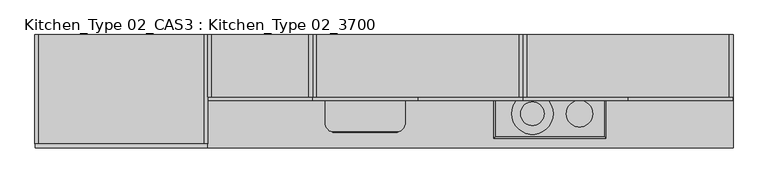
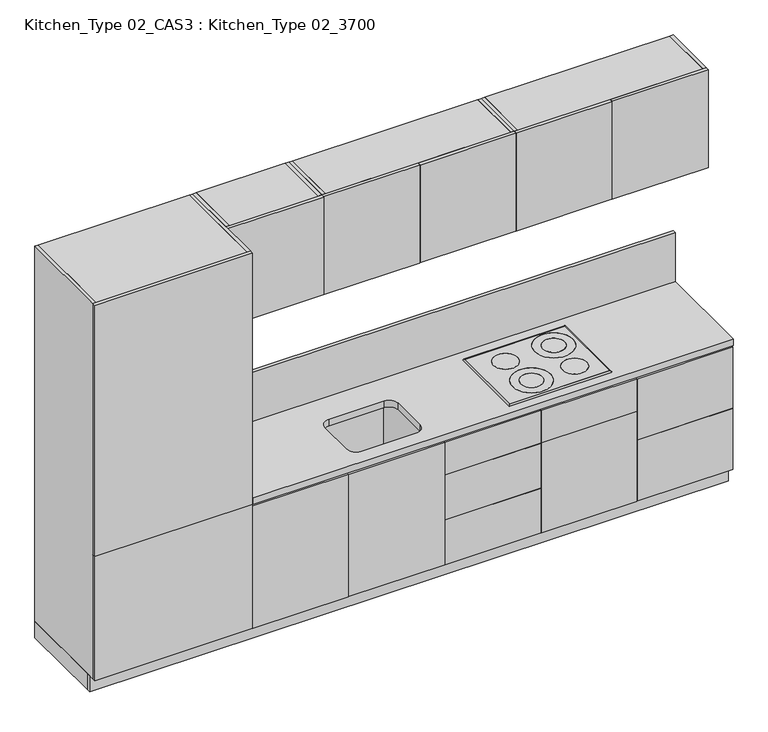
"""IFC4 building model written with IfcOpenShell, lengths in millimetres: furniture geometry, Kitchen_Type 02_CAS3 : Kitchen_Type 02_3700."""

from ifc_helpers import new_model, si_unit, point, frame, frame_2d, origin, origin_with_axes, place, context, project, spatial, polyline, circle_curve, ellipse_curve, trimmed, segment, composite_curve, outline, extrude, source, transform, mapped, element, save
from ifc_brep_helpers import plane_surface, cylinder_surface, advanced_brep


def kitchen_type_02_cas3_kitchen_type_02_3700_78c6b683(model_context):
    return source(origin(), model_context, "Body", "SolidModel", [
        advanced_brep(
        [(3018.8951127, 480.560876, 908.0), (3026.8951127, 488.560876, 900.0), (2430.8951127, 488.560876, 900.0), (2438.8951127, 480.560876, 908.0), (3018.8951127, 480.560876, 900.0), (2438.8951127, 480.560876, 900.0), (2430.8951127, 22.560876, 900.0), (2438.8951127, 30.560876, 908.0), (2438.8951127, 30.560876, 900.0), (3026.8951127, 22.560876, 900.0), (3018.8951127, 30.560876, 908.0), (3018.8951127, 30.560876, 900.0)],
        [
            (0, 1, ellipse_curve(frame((3018.8951127, 480.560876, 900.0), z_axis=(-0.707106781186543, 0.7071067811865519, 0.0), x_axis=(0.7071067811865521, 0.707106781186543, 0.0)), 11.3137085, 8.0)),
            (1, 2),
            (2, 3, ellipse_curve(frame((2438.8951127, 480.560876, 900.0), z_axis=(0.7071067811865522, 0.7071067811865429, 0.0), x_axis=(0.7071067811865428, -0.7071067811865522, 0.0)), 11.3137085, 8.0)),
            (3, 0),
            (4, 0),
            (3, 5),
            (5, 4),
            (2, 6),
            (6, 7, ellipse_curve(frame((2438.8951127, 30.560876, 900.0), z_axis=(-0.7071067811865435, 0.7071067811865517, 0.0), x_axis=(0.7071067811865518, 0.7071067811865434, 0.0)), 11.3137085, 8.0)),
            (7, 3),
            (7, 8),
            (8, 5),
            (6, 9),
            (9, 10, ellipse_curve(frame((3018.8951127, 30.560876, 900.0), z_axis=(-0.7071067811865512, -0.7071067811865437, 0.0), x_axis=(-0.7071067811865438, 0.7071067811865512, 0.0)), 11.3137085, 8.0)),
            (10, 7),
            (10, 11),
            (11, 8),
            (1, 9),
            (11, 4),
            (0, 10),
        ],
        [
            cylinder_surface(frame((3018.8951127, 480.560876, 900.0), z_axis=(1.0, 0.0, 0.0), x_axis=(0.0, 1.0, 0.0)), 8.0),
            plane_surface(frame((3018.8951127, 480.560876, 908.0), z_axis=(0.0, -1.0, 0.0), x_axis=(-1.0, 0.0, 0.0))),
            cylinder_surface(frame((2438.8951127, 480.560876, 900.0), z_axis=(0.0, 1.0, 0.0), x_axis=(-1.0, 0.0, 0.0)), 8.0),
            plane_surface(frame((2438.8951127, 480.560876, 908.0), z_axis=(1.0, 0.0, 0.0), x_axis=(0.0, -1.0, 0.0))),
            cylinder_surface(frame((2438.8951127, 30.560876, 900.0), z_axis=(-1.0, 0.0, 0.0), x_axis=(0.0, -1.0, 0.0)), 8.0),
            plane_surface(frame((2438.8951127, 30.560876, 908.0), z_axis=(0.0, 1.0, 0.0), x_axis=(1.0, 0.0, 0.0))),
            plane_surface(frame((3018.8951127, 30.560876, 900.0), z_axis=(0.0, 0.0, -1.0), x_axis=(0.0, 1.0, 0.0))),
            cylinder_surface(frame((3018.8951127, 30.560876, 900.0), z_axis=(0.0, -1.0, 0.0), x_axis=(1.0, 0.0, 0.0)), 8.0),
            plane_surface(frame((3018.8951127, 30.560876, 908.0), z_axis=(-1.0, 0.0, 0.0), x_axis=(0.0, 1.0, 0.0))),
        ],
        [
            (0, [[1, 2, 3, 4]]),
            (1, [[5, -4, 6, 7]]),
            (2, [[-3, 8, 9, 10]]),
            (3, [[-6, -10, 11, 12]]),
            (4, [[-9, 13, 14, 15]]),
            (5, [[-11, -15, 16, 17]]),
            (6, [[18, -13, -8, -2], [-12, -17, 19, -7]]),
            (7, [[-14, -18, -1, 20]]),
            (8, [[-16, -20, -5, -19]]),
        ],
    ),
        extrude(outline(polyline([(2438.8951127, 30.560876), (2438.8951127, 480.560876), (3018.8951127, 480.560876), (3018.8951127, 30.560876), (2438.8951127, 30.560876)]), holes=[composite_curve([segment(trimmed(circle_curve(frame_2d((2886.3951127, 153.060876)), 70.0), [point((2956.3951127, 153.060876))], [point((2816.3951127, 153.060876))], True, "CARTESIAN"), True, "CONTINUOUS"), segment(trimmed(circle_curve(frame_2d((2886.3951127, 153.060876)), 70.0), [point((2816.3951127, 153.060876))], [point((2956.3951127, 153.060876))], True, "CARTESIAN"), True, "CONTINUOUS")], self_intersect=False), composite_curve([segment(trimmed(circle_curve(frame_2d((2886.3951127, 363.060876)), 110.0), [point((2996.3951127, 363.060876))], [point((2776.3951127, 363.060876))], True, "CARTESIAN"), True, "CONTINUOUS"), segment(trimmed(circle_curve(frame_2d((2886.3951127, 363.060876)), 110.0), [point((2776.3951127, 363.060876))], [point((2996.3951127, 363.060876))], True, "CARTESIAN"), True, "CONTINUOUS")], self_intersect=False), composite_curve([segment(trimmed(circle_curve(frame_2d((2636.3951127, 153.060876)), 110.0), [point((2746.3951127, 153.060876))], [point((2526.3951127, 153.060876))], True, "CARTESIAN"), True, "CONTINUOUS"), segment(trimmed(circle_curve(frame_2d((2636.3951127, 153.060876)), 110.0), [point((2526.3951127, 153.060876))], [point((2746.3951127, 153.060876))], True, "CARTESIAN"), True, "CONTINUOUS")], self_intersect=False), composite_curve([segment(trimmed(circle_curve(frame_2d((2606.3951127, 363.060876)), 70.0), [point((2676.3951127, 363.060876))], [point((2536.3951127, 363.060876))], True, "CARTESIAN"), True, "CONTINUOUS"), segment(trimmed(circle_curve(frame_2d((2606.3951127, 363.060876)), 70.0), [point((2536.3951127, 363.060876))], [point((2676.3951127, 363.060876))], True, "CARTESIAN"), True, "CONTINUOUS")], self_intersect=False)]), frame((0.0, 0.0, 900.0), z_axis=(0.0, 0.0, 1.0), x_axis=(1.0, 0.0, 0.0)), (0.0, 0.0, 1.0), 8.0),
        extrude(outline(composite_curve([segment(trimmed(circle_curve(frame_2d((2886.3951127, 363.060876)), 62.5), [point((2948.8951127, 363.060876))], [point((2823.8951127, 363.060876))], False, "CARTESIAN"), True, "CONTINUOUS"), segment(trimmed(circle_curve(frame_2d((2886.3951127, 363.060876)), 62.5), [point((2823.8951127, 363.060876))], [point((2948.8951127, 363.060876))], False, "CARTESIAN"), True, "CONTINUOUS")], self_intersect=False)), frame((0.0, 0.0, 900.0), z_axis=(0.0, 0.0, 1.0), x_axis=(1.0, 0.0, 0.0)), (0.0, 0.0, 1.0), 8.0),
        extrude(outline(composite_curve([segment(trimmed(circle_curve(frame_2d((2636.3951127, 153.060876)), 62.5), [point((2698.8951127, 153.060876))], [point((2573.8951127, 153.060876))], False, "CARTESIAN"), True, "CONTINUOUS"), segment(trimmed(circle_curve(frame_2d((2636.3951127, 153.060876)), 62.5), [point((2573.8951127, 153.060876))], [point((2698.8951127, 153.060876))], False, "CARTESIAN"), True, "CONTINUOUS")], self_intersect=False)), frame((0.0, 0.0, 900.0), z_axis=(0.0, 0.0, 1.0), x_axis=(1.0, 0.0, 0.0)), (0.0, 0.0, 1.0), 8.0),
        extrude(outline(composite_curve([segment(trimmed(circle_curve(frame_2d((2886.3951127, 153.060876)), 70.0), [point((2816.3951127, 153.060876))], [point((2956.3951127, 153.060876))], False, "CARTESIAN"), True, "CONTINUOUS"), segment(trimmed(circle_curve(frame_2d((2886.3951127, 153.060876)), 70.0), [point((2956.3951127, 153.060876))], [point((2816.3951127, 153.060876))], False, "CARTESIAN"), True, "CONTINUOUS")], self_intersect=False)), frame((0.0, 0.0, 894.0), z_axis=(0.0, 0.0, 1.0), x_axis=(1.0, 0.0, 0.0)), (0.0, 0.0, 1.0), 14.0),
        extrude(outline(composite_curve([segment(trimmed(circle_curve(frame_2d((2886.3951127, 363.060876)), 110.0), [point((2776.3951127, 363.060876))], [point((2996.3951127, 363.060876))], False, "CARTESIAN"), True, "CONTINUOUS"), segment(trimmed(circle_curve(frame_2d((2886.3951127, 363.060876)), 110.0), [point((2996.3951127, 363.060876))], [point((2776.3951127, 363.060876))], False, "CARTESIAN"), True, "CONTINUOUS")], self_intersect=False), holes=[composite_curve([segment(trimmed(circle_curve(frame_2d((2886.3951127, 363.060876)), 62.5), [point((2823.8951127, 363.060876))], [point((2948.8951127, 363.060876))], True, "CARTESIAN"), True, "CONTINUOUS"), segment(trimmed(circle_curve(frame_2d((2886.3951127, 363.060876)), 62.5), [point((2948.8951127, 363.060876))], [point((2823.8951127, 363.060876))], True, "CARTESIAN"), True, "CONTINUOUS")], self_intersect=False)]), frame((0.0, 0.0, 894.0), z_axis=(0.0, 0.0, 1.0), x_axis=(1.0, 0.0, 0.0)), (0.0, 0.0, 1.0), 14.0),
        extrude(outline(composite_curve([segment(trimmed(circle_curve(frame_2d((2636.3951127, 153.060876)), 110.0), [point((2526.3951127, 153.060876))], [point((2746.3951127, 153.060876))], False, "CARTESIAN"), True, "CONTINUOUS"), segment(trimmed(circle_curve(frame_2d((2636.3951127, 153.060876)), 110.0), [point((2746.3951127, 153.060876))], [point((2526.3951127, 153.060876))], False, "CARTESIAN"), True, "CONTINUOUS")], self_intersect=False), holes=[composite_curve([segment(trimmed(circle_curve(frame_2d((2636.3951127, 153.060876)), 62.5), [point((2573.8951127, 153.060876))], [point((2698.8951127, 153.060876))], True, "CARTESIAN"), True, "CONTINUOUS"), segment(trimmed(circle_curve(frame_2d((2636.3951127, 153.060876)), 62.5), [point((2698.8951127, 153.060876))], [point((2573.8951127, 153.060876))], True, "CARTESIAN"), True, "CONTINUOUS")], self_intersect=False)]), frame((0.0, 0.0, 894.0), z_axis=(0.0, 0.0, 1.0), x_axis=(1.0, 0.0, 0.0)), (0.0, 0.0, 1.0), 14.0),
        extrude(outline(composite_curve([segment(trimmed(circle_curve(frame_2d((2606.3951127, 363.060876)), 70.0), [point((2536.3951127, 363.060876))], [point((2676.3951127, 363.060876))], False, "CARTESIAN"), True, "CONTINUOUS"), segment(trimmed(circle_curve(frame_2d((2606.3951127, 363.060876)), 70.0), [point((2676.3951127, 363.060876))], [point((2536.3951127, 363.060876))], False, "CARTESIAN"), True, "CONTINUOUS")], self_intersect=False)), frame((0.0, 0.0, 894.0), z_axis=(0.0, 0.0, 1.0), x_axis=(1.0, 0.0, 0.0)), (0.0, 0.0, 1.0), 14.0),
        extrude(outline(polyline([(1471.0, 221.960876), (916.0, 221.960876), (916.0, 241.960876), (1471.0, 241.960876), (1471.0, 221.960876)])), frame((0.0, 0.0, 1800.0), z_axis=(0.0, 0.0, 1.0), x_axis=(1.0, 0.0, 0.0)), (0.0, 0.0, 1.0), 599.0),
        extrude(outline(polyline([(1452.0, 571.960876), (1472.0, 571.960876), (1472.0, 241.960876), (1452.0, 241.960876), (1452.0, 571.960876)])), frame((0.0, 0.0, 1800.0), z_axis=(0.0, 0.0, 1.0), x_axis=(1.0, 0.0, 0.0)), (0.0, 0.0, 1.0), 600.0),
        extrude(outline(polyline([(915.0, 571.960876), (935.0, 571.960876), (935.0, 241.960876), (915.0, 241.960876), (915.0, 571.960876)])), frame((0.0, 0.0, 1800.0), z_axis=(0.0, 0.0, 1.0), x_axis=(1.0, 0.0, 0.0)), (0.0, 0.0, 1.0), 600.0),
        extrude(outline(polyline([(1452.0, 551.960876), (935.0, 551.960876), (935.0, 571.960876), (1452.0, 571.960876), (1452.0, 551.960876)])), frame((0.0, 0.0, 1800.0), z_axis=(0.0, 0.0, 1.0), x_axis=(1.0, 0.0, 0.0)), (0.0, 0.0, 1.0), 580.0),
        extrude(outline(polyline([(1452.0, 551.960876), (1452.0, 241.960876), (935.0, 241.960876), (935.0, 551.960876), (1452.0, 551.960876)])), frame((0.0, 0.0, 1800.0), z_axis=(0.0, 0.0, 1.0), x_axis=(1.0, 0.0, 0.0)), (0.0, 0.0, 1.0), 20.0),
        extrude(outline(polyline([(1452.0, 571.960876), (1452.0, 241.960876), (935.0, 241.960876), (935.0, 571.960876), (1452.0, 571.960876)])), frame((0.0, 0.0, 2380.0), z_axis=(0.0, 0.0, 1.0), x_axis=(1.0, 0.0, 0.0)), (0.0, 0.0, 1.0), 20.0),
        extrude(outline(polyline([(1473.0, 221.960876), (1473.0, 241.960876), (2028.0, 241.960876), (2028.0, 221.960876), (1473.0, 221.960876)])), frame((0.0, 0.0, 1800.0), z_axis=(0.0, 0.0, 1.0), x_axis=(1.0, 0.0, 0.0)), (0.0, 0.0, 1.0), 599.0),
        extrude(outline(polyline([(2585.0, 221.960876), (2030.0, 221.960876), (2030.0, 241.960876), (2585.0, 241.960876), (2585.0, 221.960876)])), frame((0.0, 0.0, 1800.0), z_axis=(0.0, 0.0, 1.0), x_axis=(1.0, 0.0, 0.0)), (0.0, 0.0, 1.0), 599.0),
        extrude(outline(polyline([(2566.0, 571.960876), (2586.0, 571.960876), (2586.0, 241.960876), (2566.0, 241.960876), (2566.0, 571.960876)])), frame((0.0, 0.0, 1800.0), z_axis=(0.0, 0.0, 1.0), x_axis=(1.0, 0.0, 0.0)), (0.0, 0.0, 1.0), 600.0),
        extrude(outline(polyline([(1472.0, 571.960876), (1492.0, 571.960876), (1492.0, 241.960876), (1472.0, 241.960876), (1472.0, 571.960876)])), frame((0.0, 0.0, 1800.0), z_axis=(0.0, 0.0, 1.0), x_axis=(1.0, 0.0, 0.0)), (0.0, 0.0, 1.0), 600.0),
        extrude(outline(polyline([(2566.0, 551.960876), (1492.0, 551.960876), (1492.0, 571.960876), (2566.0, 571.960876), (2566.0, 551.960876)])), frame((0.0, 0.0, 1800.0), z_axis=(0.0, 0.0, 1.0), x_axis=(1.0, 0.0, 0.0)), (0.0, 0.0, 1.0), 580.0),
        extrude(outline(polyline([(2566.0, 551.960876), (2566.0, 241.960876), (1492.0, 241.960876), (1492.0, 551.960876), (2566.0, 551.960876)])), frame((0.0, 0.0, 1800.0), z_axis=(0.0, 0.0, 1.0), x_axis=(1.0, 0.0, 0.0)), (0.0, 0.0, 1.0), 20.0),
        extrude(outline(polyline([(2566.0, 571.960876), (2566.0, 241.960876), (1492.0, 241.960876), (1492.0, 571.960876), (2566.0, 571.960876)])), frame((0.0, 0.0, 2380.0), z_axis=(0.0, 0.0, 1.0), x_axis=(1.0, 0.0, 0.0)), (0.0, 0.0, 1.0), 20.0),
        extrude(outline(polyline([(2616.0, 551.960876), (3113.0, 551.960876), (3113.0, -8.039124), (2616.0, -8.039124), (2616.0, 551.960876)])), frame((0.0, 0.0, 390.0), z_axis=(0.0, 0.0, 1.0), x_axis=(1.0, 0.0, 0.0)), (0.0, 0.0, 1.0), 20.0),
        extrude(outline(polyline([(2587.0, -28.039124), (2587.0, -8.039124), (3142.0, -8.039124), (3142.0, -28.039124), (2587.0, -28.039124)])), frame((0.0, 0.0, 100.0), z_axis=(0.0, 0.0, 1.0), x_axis=(1.0, 0.0, 0.0)), (0.0, 0.0, 1.0), 550.0),
        extrude(outline(polyline([(2587.0, -28.039124), (2587.0, -8.039124), (3142.0, -8.039124), (3142.0, -28.039124), (2587.0, -28.039124)])), frame((0.0, 0.0, 650.0), z_axis=(0.0, 0.0, 1.0), x_axis=(1.0, 0.0, 0.0)), (0.0, 0.0, 1.0), 200.0),
        extrude(outline(polyline([(3143.0, 41.960876), (2586.0, 41.960876), (2586.0, 571.960876), (2606.0, 571.960876), (2606.0, 61.960876), (3123.0, 61.960876), (3123.0, 571.960876), (3143.0, 571.960876), (3143.0, 41.960876)])), origin_with_axes(), (0.0, 0.0, 1.0), 100.0),
        extrude(outline(polyline([(2606.0, 571.960876), (2606.0, -8.039124), (2586.0, -8.039124), (2586.0, 571.960876), (2606.0, 571.960876)])), frame((0.0, 0.0, 100.0), z_axis=(0.0, 0.0, 1.0), x_axis=(1.0, 0.0, 0.0)), (0.0, 0.0, 1.0), 760.0),
        extrude(outline(polyline([(3143.0, 571.960876), (3143.0, -8.039124), (3123.0, -8.039124), (3123.0, 571.960876), (3143.0, 571.960876)])), frame((0.0, 0.0, 100.0), z_axis=(0.0, 0.0, 1.0), x_axis=(1.0, 0.0, 0.0)), (0.0, 0.0, 1.0), 760.0),
        extrude(outline(polyline([(2606.0, 551.960876), (2606.0, 571.960876), (3123.0, 571.960876), (3123.0, 551.960876), (2606.0, 551.960876)])), frame((0.0, 0.0, 100.0), z_axis=(0.0, 0.0, 1.0), x_axis=(1.0, 0.0, 0.0)), (0.0, 0.0, 1.0), 740.0),
        extrude(outline(polyline([(2606.0, 551.960876), (3123.0, 551.960876), (3123.0, -8.039124), (2606.0, -8.039124), (2606.0, 551.960876)])), frame((0.0, 0.0, 100.0), z_axis=(0.0, 0.0, 1.0), x_axis=(1.0, 0.0, 0.0)), (0.0, 0.0, 1.0), 20.0),
        extrude(outline(polyline([(2606.0, 571.960876), (3123.0, 571.960876), (3123.0, 506.960876), (2606.0, 506.960876), (2606.0, 571.960876)])), frame((0.0, 0.0, 840.0), z_axis=(0.0, 0.0, 1.0), x_axis=(1.0, 0.0, 0.0)), (0.0, 0.0, 1.0), 20.0),
        extrude(outline(polyline([(3123.0, 56.960876), (3123.0, -8.039124), (2606.0, -8.039124), (2606.0, 56.960876), (3123.0, 56.960876)])), frame((0.0, 0.0, 840.0), z_axis=(0.0, 0.0, 1.0), x_axis=(1.0, 0.0, 0.0)), (0.0, 0.0, 1.0), 20.0),
        extrude(outline(polyline([(2587.0, 221.960876), (2587.0, 241.960876), (3142.0, 241.960876), (3142.0, 221.960876), (2587.0, 221.960876)])), frame((0.0, 0.0, 1800.0), z_axis=(0.0, 0.0, 1.0), x_axis=(1.0, 0.0, 0.0)), (0.0, 0.0, 1.0), 599.0),
        extrude(outline(polyline([(3699.0, 221.960876), (3144.0, 221.960876), (3144.0, 241.960876), (3699.0, 241.960876), (3699.0, 221.960876)])), frame((0.0, 0.0, 1800.0), z_axis=(0.0, 0.0, 1.0), x_axis=(1.0, 0.0, 0.0)), (0.0, 0.0, 1.0), 599.0),
        extrude(outline(polyline([(3680.0, 571.960876), (3700.0, 571.960876), (3700.0, 241.960876), (3680.0, 241.960876), (3680.0, 571.960876)])), frame((0.0, 0.0, 1800.0), z_axis=(0.0, 0.0, 1.0), x_axis=(1.0, 0.0, 0.0)), (0.0, 0.0, 1.0), 600.0),
        extrude(outline(polyline([(2586.0, 571.960876), (2606.0, 571.960876), (2606.0, 241.960876), (2586.0, 241.960876), (2586.0, 571.960876)])), frame((0.0, 0.0, 1800.0), z_axis=(0.0, 0.0, 1.0), x_axis=(1.0, 0.0, 0.0)), (0.0, 0.0, 1.0), 600.0),
        extrude(outline(polyline([(3680.0, 551.960876), (2606.0, 551.960876), (2606.0, 571.960876), (3680.0, 571.960876), (3680.0, 551.960876)])), frame((0.0, 0.0, 1800.0), z_axis=(0.0, 0.0, 1.0), x_axis=(1.0, 0.0, 0.0)), (0.0, 0.0, 1.0), 580.0),
        extrude(outline(polyline([(3680.0, 551.960876), (3680.0, 241.960876), (2606.0, 241.960876), (2606.0, 551.960876), (3680.0, 551.960876)])), frame((0.0, 0.0, 1800.0), z_axis=(0.0, 0.0, 1.0), x_axis=(1.0, 0.0, 0.0)), (0.0, 0.0, 1.0), 20.0),
        extrude(outline(polyline([(3680.0, 571.960876), (3680.0, 241.960876), (2606.0, 241.960876), (2606.0, 571.960876), (3680.0, 571.960876)])), frame((0.0, 0.0, 2380.0), z_axis=(0.0, 0.0, 1.0), x_axis=(1.0, 0.0, 0.0)), (0.0, 0.0, 1.0), 20.0),
        extrude(outline(polyline([(3700.0, 551.960876), (915.0, 551.960876), (915.0, 571.960876), (3700.0, 571.960876), (3700.0, 551.960876)])), frame((0.0, 0.0, 900.0), z_axis=(0.0, 0.0, 1.0), x_axis=(1.0, 0.0, 0.0)), (0.0, 0.0, 1.0), 300.0),
        extrude(outline(polyline([(3700.0, 21.960876), (0.0, 21.960876), (0.0, 41.960876), (3700.0, 41.960876), (3700.0, 21.960876)])), origin_with_axes(), (0.0, 0.0, 1.0), 100.0),
        extrude(outline(polyline([(3700.0, 571.960876), (3700.0, -28.039124), (915.0, -28.039124), (915.0, 571.960876), (3700.0, 571.960876)]), holes=[composite_curve([segment(trimmed(circle_curve(frame_2d((1589.4, 325.1014576)), 50.8), [point((1589.4, 375.9014576))], [point((1538.6, 325.1014576))], True, "CARTESIAN"), True, "CONTINUOUS"), segment(polyline([(1538.6, 325.1014576), (1538.6, 104.7303748)]), True, "CONTINUOUS"), segment(trimmed(circle_curve(frame_2d((1589.4, 104.7303748)), 50.8), [point((1538.6, 104.7303748))], [point((1589.4, 53.9303748))], True, "CARTESIAN"), True, "CONTINUOUS"), segment(polyline([(1589.4, 53.9303748), (1911.6, 53.9303748)]), True, "CONTINUOUS"), segment(trimmed(circle_curve(frame_2d((1911.6, 104.7303748)), 50.8), [point((1911.6, 53.9303748))], [point((1962.4, 104.7303748))], True, "CARTESIAN"), True, "CONTINUOUS"), segment(polyline([(1962.4, 104.7303748), (1962.4, 325.1014576)]), True, "CONTINUOUS"), segment(trimmed(circle_curve(frame_2d((1911.6, 325.1014576)), 50.8), [point((1962.4, 325.1014576))], [point((1911.6, 375.9014576))], True, "CARTESIAN"), True, "CONTINUOUS"), segment(polyline([(1911.6, 375.9014576), (1589.4, 375.9014576)]), True, "CONTINUOUS")], self_intersect=False)]), frame((0.0, 0.0, 860.0), z_axis=(0.0, 0.0, 1.0), x_axis=(1.0, 0.0, 0.0)), (0.0, 0.0, 1.0), 40.0),
        extrude(outline(polyline([(2028.0, -28.039124), (1473.0, -28.039124), (1473.0, -8.039124), (2028.0, -8.039124), (2028.0, -28.039124)])), frame((0.0, 0.0, 100.0), z_axis=(0.0, 0.0, 1.0), x_axis=(1.0, 0.0, 0.0)), (0.0, 0.0, 1.0), 750.0),
        extrude(outline(polyline([(1472.0, 41.960876), (1472.0, 571.960876), (1492.0, 571.960876), (1492.0, 61.960876), (2009.0, 61.960876), (2009.0, 571.960876), (2029.0, 571.960876), (2029.0, 41.960876), (1472.0, 41.960876)])), origin_with_axes(), (0.0, 0.0, 1.0), 100.0),
        extrude(outline(polyline([(2009.0, 571.960876), (2029.0, 571.960876), (2029.0, -8.039124), (2009.0, -8.039124), (2009.0, 571.960876)])), frame((0.0, 0.0, 100.0), z_axis=(0.0, 0.0, 1.0), x_axis=(1.0, 0.0, 0.0)), (0.0, 0.0, 1.0), 760.0),
        extrude(outline(polyline([(1472.0, 571.960876), (1492.0, 571.960876), (1492.0, -8.039124), (1472.0, -8.039124), (1472.0, 571.960876)])), frame((0.0, 0.0, 100.0), z_axis=(0.0, 0.0, 1.0), x_axis=(1.0, 0.0, 0.0)), (0.0, 0.0, 1.0), 760.0),
        extrude(outline(polyline([(2009.0, 551.960876), (1492.0, 551.960876), (1492.0, 571.960876), (2009.0, 571.960876), (2009.0, 551.960876)])), frame((0.0, 0.0, 100.0), z_axis=(0.0, 0.0, 1.0), x_axis=(1.0, 0.0, 0.0)), (0.0, 0.0, 1.0), 740.0),
        extrude(outline(polyline([(2009.0, 551.960876), (2009.0, -8.039124), (1492.0, -8.039124), (1492.0, 551.960876), (2009.0, 551.960876)])), frame((0.0, 0.0, 100.0), z_axis=(0.0, 0.0, 1.0), x_axis=(1.0, 0.0, 0.0)), (0.0, 0.0, 1.0), 20.0),
        extrude(outline(polyline([(2009.0, 571.960876), (2009.0, 506.960876), (1492.0, 506.960876), (1492.0, 571.960876), (2009.0, 571.960876)])), frame((0.0, 0.0, 840.0), z_axis=(0.0, 0.0, 1.0), x_axis=(1.0, 0.0, 0.0)), (0.0, 0.0, 1.0), 20.0),
        extrude(outline(polyline([(1492.0, 56.960876), (2009.0, 56.960876), (2009.0, -8.039124), (1492.0, -8.039124), (1492.0, 56.960876)])), frame((0.0, 0.0, 840.0), z_axis=(0.0, 0.0, 1.0), x_axis=(1.0, 0.0, 0.0)), (0.0, 0.0, 1.0), 20.0),
        extrude(outline(polyline([(1471.0, -28.039124), (916.0, -28.039124), (916.0, -8.039124), (1471.0, -8.039124), (1471.0, -28.039124)])), frame((0.0, 0.0, 100.0), z_axis=(0.0, 0.0, 1.0), x_axis=(1.0, 0.0, 0.0)), (0.0, 0.0, 1.0), 750.0),
        extrude(outline(polyline([(915.0, 41.960876), (915.0, 571.960876), (935.0, 571.960876), (935.0, 61.960876), (1452.0, 61.960876), (1452.0, 571.960876), (1472.0, 571.960876), (1472.0, 41.960876), (915.0, 41.960876)])), origin_with_axes(), (0.0, 0.0, 1.0), 100.0),
        extrude(outline(polyline([(1452.0, 551.960876), (1452.0, -8.039124), (935.0, -8.039124), (935.0, 551.960876), (1452.0, 551.960876)])), frame((0.0, 0.0, 100.0), z_axis=(0.0, 0.0, 1.0), x_axis=(1.0, 0.0, 0.0)), (0.0, 0.0, 1.0), 20.0),
        extrude(outline(polyline([(1452.0, 571.960876), (1452.0, 506.960876), (935.0, 506.960876), (935.0, 571.960876), (1452.0, 571.960876)])), frame((0.0, 0.0, 840.0), z_axis=(0.0, 0.0, 1.0), x_axis=(1.0, 0.0, 0.0)), (0.0, 0.0, 1.0), 20.0),
        extrude(outline(polyline([(935.0, 56.960876), (1452.0, 56.960876), (1452.0, -8.039124), (935.0, -8.039124), (935.0, 56.960876)])), frame((0.0, 0.0, 840.0), z_axis=(0.0, 0.0, 1.0), x_axis=(1.0, 0.0, 0.0)), (0.0, 0.0, 1.0), 20.0),
        extrude(outline(polyline([(1452.0, 571.960876), (1472.0, 571.960876), (1472.0, -8.039124), (1452.0, -8.039124), (1452.0, 571.960876)])), frame((0.0, 0.0, 100.0), z_axis=(0.0, 0.0, 1.0), x_axis=(1.0, 0.0, 0.0)), (0.0, 0.0, 1.0), 760.0),
        extrude(outline(polyline([(915.0, 571.960876), (935.0, 571.960876), (935.0, -8.039124), (915.0, -8.039124), (915.0, 571.960876)])), frame((0.0, 0.0, 100.0), z_axis=(0.0, 0.0, 1.0), x_axis=(1.0, 0.0, 0.0)), (0.0, 0.0, 1.0), 760.0),
        extrude(outline(polyline([(1452.0, 551.960876), (935.0, 551.960876), (935.0, 571.960876), (1452.0, 571.960876), (1452.0, 551.960876)])), frame((0.0, 0.0, 100.0), z_axis=(0.0, 0.0, 1.0), x_axis=(1.0, 0.0, 0.0)), (0.0, 0.0, 1.0), 740.0),
        extrude(outline(polyline([(30.0, 551.960876), (885.0, 551.960876), (885.0, -8.039124), (30.0, -8.039124), (30.0, 551.960876)])), frame((0.0, 0.0, 1990.0), z_axis=(0.0, 0.0, 1.0), x_axis=(1.0, 0.0, 0.0)), (0.0, 0.0, 1.0), 20.0),
        extrude(outline(polyline([(30.0, 551.960876), (885.0, 551.960876), (885.0, -8.039124), (30.0, -8.039124), (30.0, 551.960876)])), frame((0.0, 0.0, 1690.0), z_axis=(0.0, 0.0, 1.0), x_axis=(1.0, 0.0, 0.0)), (0.0, 0.0, 1.0), 20.0),
        extrude(outline(polyline([(30.0, 551.960876), (885.0, 551.960876), (885.0, -8.039124), (30.0, -8.039124), (30.0, 551.960876)])), frame((0.0, 0.0, 1390.0), z_axis=(0.0, 0.0, 1.0), x_axis=(1.0, 0.0, 0.0)), (0.0, 0.0, 1.0), 20.0),
        extrude(outline(polyline([(30.0, 551.960876), (885.0, 551.960876), (885.0, -8.039124), (30.0, -8.039124), (30.0, 551.960876)])), frame((0.0, 0.0, 1090.0), z_axis=(0.0, 0.0, 1.0), x_axis=(1.0, 0.0, 0.0)), (0.0, 0.0, 1.0), 20.0),
        extrude(outline(polyline([(20.0, 551.960876), (895.0, 551.960876), (895.0, -8.039124), (20.0, -8.039124), (20.0, 551.960876)])), frame((0.0, 0.0, 790.0), z_axis=(0.0, 0.0, 1.0), x_axis=(1.0, 0.0, 0.0)), (0.0, 0.0, 1.0), 20.0),
        extrude(outline(polyline([(1.0, -28.039124), (1.0, -8.039124), (914.0, -8.039124), (914.0, -28.039124), (1.0, -28.039124)])), frame((0.0, 0.0, 860.0), z_axis=(0.0, 0.0, 1.0), x_axis=(1.0, 0.0, 0.0)), (0.0, 0.0, 1.0), 1540.0),
        extrude(outline(polyline([(1.0, -28.039124), (1.0, -8.039124), (914.0, -8.039124), (914.0, -28.039124), (1.0, -28.039124)])), frame((0.0, 0.0, 100.0), z_axis=(0.0, 0.0, 1.0), x_axis=(1.0, 0.0, 0.0)), (0.0, 0.0, 1.0), 760.0),
        extrude(outline(polyline([(915.0, 41.960876), (0.0, 41.960876), (0.0, 571.960876), (20.0, 571.960876), (20.0, 61.960876), (895.0, 61.960876), (895.0, 571.960876), (915.0, 571.960876), (915.0, 41.960876)])), origin_with_axes(), (0.0, 0.0, 1.0), 100.0),
        extrude(outline(polyline([(20.0, 551.960876), (895.0, 551.960876), (895.0, -8.039124), (20.0, -8.039124), (20.0, 551.960876)])), frame((0.0, 0.0, 100.0), z_axis=(0.0, 0.0, 1.0), x_axis=(1.0, 0.0, 0.0)), (0.0, 0.0, 1.0), 20.0),
        extrude(outline(polyline([(20.0, 571.960876), (895.0, 571.960876), (895.0, -8.039124), (20.0, -8.039124), (20.0, 571.960876)])), frame((0.0, 0.0, 2380.0), z_axis=(0.0, 0.0, 1.0), x_axis=(1.0, 0.0, 0.0)), (0.0, 0.0, 1.0), 20.0),
        extrude(outline(polyline([(20.0, 571.960876), (20.0, -8.039124), (0.0, -8.039124), (0.0, 571.960876), (20.0, 571.960876)])), frame((0.0, 0.0, 100.0), z_axis=(0.0, 0.0, 1.0), x_axis=(1.0, 0.0, 0.0)), (0.0, 0.0, 1.0), 2300.0),
        extrude(outline(polyline([(915.0, 571.960876), (915.0, -8.039124), (895.0, -8.039124), (895.0, 571.960876), (915.0, 571.960876)])), frame((0.0, 0.0, 100.0), z_axis=(0.0, 0.0, 1.0), x_axis=(1.0, 0.0, 0.0)), (0.0, 0.0, 1.0), 2300.0),
        extrude(outline(polyline([(20.0, 551.960876), (20.0, 571.960876), (895.0, 571.960876), (895.0, 551.960876), (20.0, 551.960876)])), frame((0.0, 0.0, 100.0), z_axis=(0.0, 0.0, 1.0), x_axis=(1.0, 0.0, 0.0)), (0.0, 0.0, 1.0), 2280.0),
        extrude(outline(polyline([(3699.0, -28.039124), (3144.0, -28.039124), (3144.0, -8.039124), (3699.0, -8.039124), (3699.0, -28.039124)])), frame((0.0, 0.0, 475.5), z_axis=(0.0, 0.0, 1.0), x_axis=(1.0, 0.0, 0.0)), (0.0, 0.0, 1.0), 374.5),
        extrude(outline(polyline([(3699.0, -28.039124), (3144.0, -28.039124), (3144.0, -8.039124), (3699.0, -8.039124), (3699.0, -28.039124)])), frame((0.0, 0.0, 100.0), z_axis=(0.0, 0.0, 1.0), x_axis=(1.0, 0.0, 0.0)), (0.0, 0.0, 1.0), 374.5),
        extrude(outline(polyline([(3143.0, 41.960876), (3143.0, 571.960876), (3163.0, 571.960876), (3163.0, 61.960876), (3680.0, 61.960876), (3680.0, 571.960876), (3700.0, 571.960876), (3700.0, 41.960876), (3143.0, 41.960876)])), origin_with_axes(), (0.0, 0.0, 1.0), 100.0),
        extrude(outline(polyline([(3680.0, 571.960876), (3700.0, 571.960876), (3700.0, -8.039124), (3680.0, -8.039124), (3680.0, 571.960876)])), frame((0.0, 0.0, 100.0), z_axis=(0.0, 0.0, 1.0), x_axis=(1.0, 0.0, 0.0)), (0.0, 0.0, 1.0), 760.0),
        extrude(outline(polyline([(3143.0, 571.960876), (3163.0, 571.960876), (3163.0, -8.039124), (3143.0, -8.039124), (3143.0, 571.960876)])), frame((0.0, 0.0, 100.0), z_axis=(0.0, 0.0, 1.0), x_axis=(1.0, 0.0, 0.0)), (0.0, 0.0, 1.0), 760.0),
        extrude(outline(polyline([(3680.0, 551.960876), (3163.0, 551.960876), (3163.0, 571.960876), (3680.0, 571.960876), (3680.0, 551.960876)])), frame((0.0, 0.0, 100.0), z_axis=(0.0, 0.0, 1.0), x_axis=(1.0, 0.0, 0.0)), (0.0, 0.0, 1.0), 740.0),
        extrude(outline(polyline([(3680.0, 551.960876), (3680.0, -8.039124), (3163.0, -8.039124), (3163.0, 551.960876), (3680.0, 551.960876)])), frame((0.0, 0.0, 100.0), z_axis=(0.0, 0.0, 1.0), x_axis=(1.0, 0.0, 0.0)), (0.0, 0.0, 1.0), 20.0),
        extrude(outline(polyline([(3680.0, 571.960876), (3680.0, 506.960876), (3163.0, 506.960876), (3163.0, 571.960876), (3680.0, 571.960876)])), frame((0.0, 0.0, 840.0), z_axis=(0.0, 0.0, 1.0), x_axis=(1.0, 0.0, 0.0)), (0.0, 0.0, 1.0), 20.0),
        extrude(outline(polyline([(3163.0, 56.960876), (3680.0, 56.960876), (3680.0, -8.039124), (3163.0, -8.039124), (3163.0, 56.960876)])), frame((0.0, 0.0, 840.0), z_axis=(0.0, 0.0, 1.0), x_axis=(1.0, 0.0, 0.0)), (0.0, 0.0, 1.0), 20.0),
        extrude(outline(polyline([(2585.0, -28.039124), (2030.0, -28.039124), (2030.0, -8.039124), (2585.0, -8.039124), (2585.0, -28.039124)])), frame((0.0, 0.0, 651.0), z_axis=(0.0, 0.0, 1.0), x_axis=(1.0, 0.0, 0.0)), (0.0, 0.0, 1.0), 199.0),
        extrude(outline(polyline([(2585.0, -28.039124), (2030.0, -28.039124), (2030.0, -8.039124), (2585.0, -8.039124), (2585.0, -28.039124)])), frame((0.0, 0.0, 375.5), z_axis=(0.0, 0.0, 1.0), x_axis=(1.0, 0.0, 0.0)), (0.0, 0.0, 1.0), 274.5),
        extrude(outline(polyline([(2585.0, -28.039124), (2030.0, -28.039124), (2030.0, -8.039124), (2585.0, -8.039124), (2585.0, -28.039124)])), frame((0.0, 0.0, 100.0), z_axis=(0.0, 0.0, 1.0), x_axis=(1.0, 0.0, 0.0)), (0.0, 0.0, 1.0), 274.5),
        extrude(outline(polyline([(2029.0, 41.960876), (2029.0, 571.960876), (2049.0, 571.960876), (2049.0, 61.960876), (2566.0, 61.960876), (2566.0, 571.960876), (2586.0, 571.960876), (2586.0, 41.960876), (2029.0, 41.960876)])), origin_with_axes(), (0.0, 0.0, 1.0), 100.0),
        extrude(outline(polyline([(2566.0, 571.960876), (2586.0, 571.960876), (2586.0, -8.039124), (2566.0, -8.039124), (2566.0, 571.960876)])), frame((0.0, 0.0, 100.0), z_axis=(0.0, 0.0, 1.0), x_axis=(1.0, 0.0, 0.0)), (0.0, 0.0, 1.0), 760.0),
        extrude(outline(polyline([(2029.0, 571.960876), (2049.0, 571.960876), (2049.0, -8.039124), (2029.0, -8.039124), (2029.0, 571.960876)])), frame((0.0, 0.0, 100.0), z_axis=(0.0, 0.0, 1.0), x_axis=(1.0, 0.0, 0.0)), (0.0, 0.0, 1.0), 760.0),
        extrude(outline(polyline([(2566.0, 551.960876), (2049.0, 551.960876), (2049.0, 571.960876), (2566.0, 571.960876), (2566.0, 551.960876)])), frame((0.0, 0.0, 100.0), z_axis=(0.0, 0.0, 1.0), x_axis=(1.0, 0.0, 0.0)), (0.0, 0.0, 1.0), 740.0),
        extrude(outline(polyline([(2566.0, 551.960876), (2566.0, -8.039124), (2049.0, -8.039124), (2049.0, 551.960876), (2566.0, 551.960876)])), frame((0.0, 0.0, 100.0), z_axis=(0.0, 0.0, 1.0), x_axis=(1.0, 0.0, 0.0)), (0.0, 0.0, 1.0), 20.0),
        extrude(outline(polyline([(2566.0, 571.960876), (2566.0, 506.960876), (2049.0, 506.960876), (2049.0, 571.960876), (2566.0, 571.960876)])), frame((0.0, 0.0, 840.0), z_axis=(0.0, 0.0, 1.0), x_axis=(1.0, 0.0, 0.0)), (0.0, 0.0, 1.0), 20.0),
        extrude(outline(polyline([(2049.0, 56.960876), (2566.0, 56.960876), (2566.0, -8.039124), (2049.0, -8.039124), (2049.0, 56.960876)])), frame((0.0, 0.0, 840.0), z_axis=(0.0, 0.0, 1.0), x_axis=(1.0, 0.0, 0.0)), (0.0, 0.0, 1.0), 20.0),
    ])


if __name__ == "__main__":
    model = new_model("IFC4")
    model_context = context("Model", 3, world=origin())
    ifc_project = project(units=[si_unit("LENGTHUNIT", "METRE", prefix="MILLI")], contexts=[model_context])
    site = spatial("IfcSite", under=ifc_project)
    building = spatial("IfcBuilding", under=site)
    placement = place(None, origin())
    kitchen_type_02_cas3_kitchen_type_02_3700_shape = kitchen_type_02_cas3_kitchen_type_02_3700_78c6b683(model_context)
    element("IfcFurniture", 1, ObjectType="Kitchen_Type 02_CAS3 : Kitchen_Type 02_3700", at=placement, inside=building, context=model_context, shape_type="MappedRepresentation", body=[
        mapped(kitchen_type_02_cas3_kitchen_type_02_3700_shape, transform((0.0, 0.0, 0.0), x_axis=(1.0, 0.0, 0.0), y_axis=(0.0, 1.0, 0.0), z_axis=(0.0, 0.0, 1.0))),
    ])
    save(model, "model.ifc")
